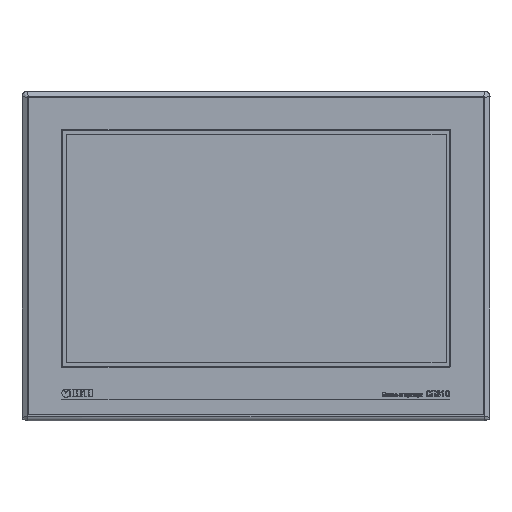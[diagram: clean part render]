
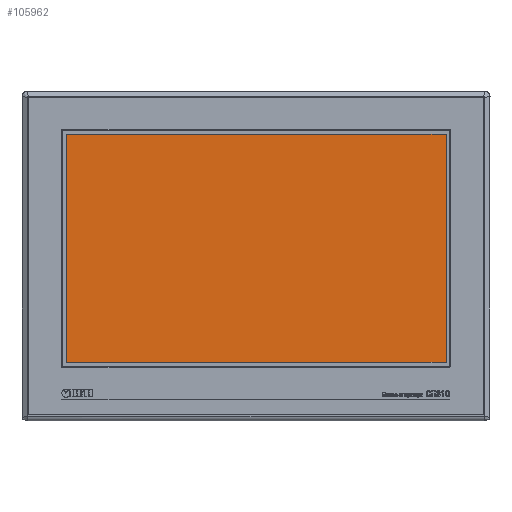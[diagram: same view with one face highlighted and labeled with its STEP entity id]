
A CAD part, front view. The second image highlights one B-rep face of the part: STEP entity #105962.
In plain terms, the highlighted planar face has unit normal (0, -1, 0) as drawn and (0, 0, 1) by its records, which use the part's own axes.
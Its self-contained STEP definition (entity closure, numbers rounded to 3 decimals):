
#148 = ORIENTED_EDGE ( 'NONE', *, *, #138443, .T. ) ;
#7027 = VERTEX_POINT ( 'NONE', #57369 ) ;
#15389 = CARTESIAN_POINT ( 'NONE',  ( 99.653, -205.329, 0. ) ) ;
#19360 = CARTESIAN_POINT ( 'NONE',  ( 99.653, -72.536, 0. ) ) ;
#20080 = LINE ( 'NONE', #91348, #137451 ) ;
#43186 = ORIENTED_EDGE ( 'NONE', *, *, #144452, .T. ) ;
#44563 = VECTOR ( 'NONE', #139823, 1000. ) ;
#50899 = ORIENTED_EDGE ( 'NONE', *, *, #144807, .T. ) ;
#57369 = CARTESIAN_POINT ( 'NONE',  ( 320.612, -72.536, 0. ) ) ;
#57710 = VERTEX_POINT ( 'NONE', #102913 ) ;
#58394 = CARTESIAN_POINT ( 'NONE',  ( 0., 0., 0. ) ) ;
#62485 = VERTEX_POINT ( 'NONE', #122192 ) ;
#65670 = FACE_OUTER_BOUND ( 'NONE', #122967, .T. ) ;
#72983 = DIRECTION ( 'NONE',  ( 1., 0., 0. ) ) ;
#74140 = CARTESIAN_POINT ( 'NONE',  ( 320.612, -72.536, 0. ) ) ;
#77433 = LINE ( 'NONE', #19360, #135339 ) ;
#80921 = AXIS2_PLACEMENT_3D ( 'NONE', #58394, #139118, #72983 ) ;
#81071 = DIRECTION ( 'NONE',  ( 1., 0., 0. ) ) ;
#88470 = VECTOR ( 'NONE', #119250, 1000. ) ;
#91348 = CARTESIAN_POINT ( 'NONE',  ( 99.653, -205.329, 0. ) ) ;
#102913 = CARTESIAN_POINT ( 'NONE',  ( 99.653, -72.536, 0. ) ) ;
#105316 = PLANE ( 'NONE',  #80921 ) ;
#105962 = ADVANCED_FACE ( 'NONE', ( #65670 ), #105316, .T. ) ;
#109948 = DIRECTION ( 'NONE',  ( 0., -1., 0. ) ) ;
#113994 = LINE ( 'NONE', #74140, #88470 ) ;
#118241 = LINE ( 'NONE', #127105, #44563 ) ;
#119250 = DIRECTION ( 'NONE',  ( 0., 1., 0. ) ) ;
#122192 = CARTESIAN_POINT ( 'NONE',  ( 320.612, -205.329, 0. ) ) ;
#122967 = EDGE_LOOP ( 'NONE', ( #148, #43186, #50899, #131738 ) ) ;
#127105 = CARTESIAN_POINT ( 'NONE',  ( 99.653, -72.536, 0. ) ) ;
#131738 = ORIENTED_EDGE ( 'NONE', *, *, #144545, .T. ) ;
#135339 = VECTOR ( 'NONE', #109948, 1000. ) ;
#137451 = VECTOR ( 'NONE', #81071, 1000. ) ;
#138443 = EDGE_CURVE ( 'NONE', #57710, #144613, #77433, .T. ) ;
#139118 = DIRECTION ( 'NONE',  ( 0., 0., 1. ) ) ;
#139823 = DIRECTION ( 'NONE',  ( -1., 0., 0. ) ) ;
#144452 = EDGE_CURVE ( 'NONE', #144613, #62485, #20080, .T. ) ;
#144545 = EDGE_CURVE ( 'NONE', #7027, #57710, #118241, .T. ) ;
#144613 = VERTEX_POINT ( 'NONE', #15389 ) ;
#144807 = EDGE_CURVE ( 'NONE', #62485, #7027, #113994, .T. ) ;
